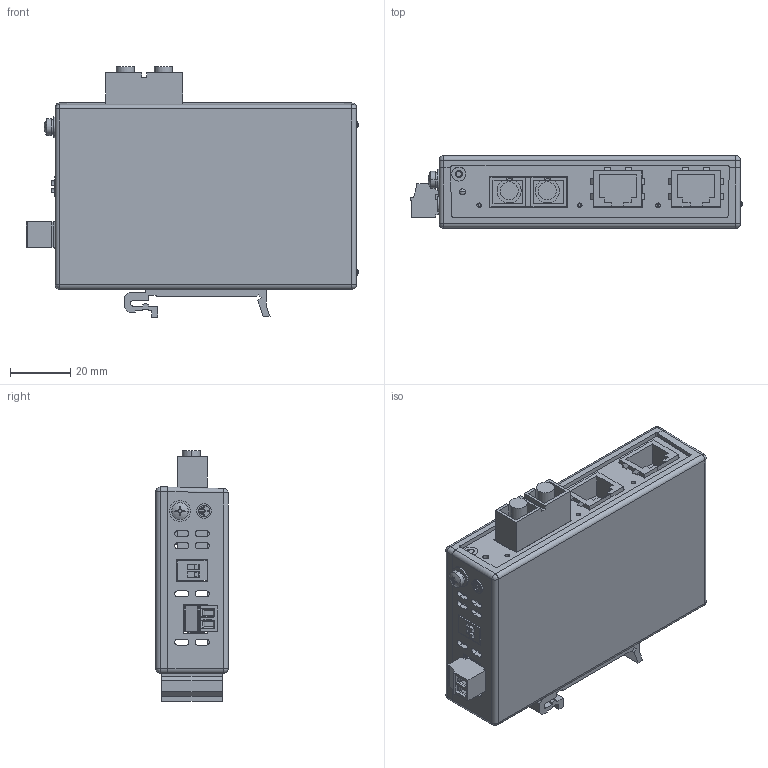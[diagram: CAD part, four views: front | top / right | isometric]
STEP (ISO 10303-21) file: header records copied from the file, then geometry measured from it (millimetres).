
FILE_DESCRIPTION((''),'2;1');
FILE_NAME('MATCHBOX_2FE1FX_ASM','2021-11-08T',('simon'),(''),'PRO/ENGINEER BY PARAMETRIC TECHNOLOGY CORPORATION, 2017170','PRO/ENGINEER BY PARAMETRIC TECHNOLOGY CORPORATION, 2017170','');
FILE_SCHEMA(('CONFIG_CONTROL_DESIGN'));
Products named in the file (29): MATCHBOX_MB_PCB_1X9; MC_1_5-LH_STIFT_1_1_1_1; BCH_381H_HOUSING_1; BCH_381H_ASM; PXC_5431181_02_BCH-381H-2-GY_3D_ASM; 5452235-BCP-508-2-71990; 5452235-BCP-508-2-73950_ASM; PXC_5434926_00_BCP-381-2-GY_3D_ASM; 1-LED; DPL-02-V; ZW2608-13S006F; 1X9; PRT-LED-0006; WGSOC-CNN0662-ST-1X9; MATCHBOX_MB_2-1X9_ASM; MATCHBOX_ME_BOTTOM_5; MATCHBOX_BOTTOM_ASM; MATCHBOX_ME_TOP_5; MATCHBOX_TOP_5_ASM; BN_4851_3645857_M3X4; KAI_GUI_20MM; CROSS_RECESSED_PAN_HEAD_SCREWS_; SPRING_LOCK_WASHERS--NORMAL_TYP; PLAIN_WASHERS--PRODUCT_GRADE_C_; PSW_M3X6_ASM; BN_M2X4; MATCHBOX_ME_24_ASM; MATCHBOX_FRONT_2-1SC; MATCHBOX_2FE1FX_ASM
Assembly tree (36 placements, depth 5):
  MATCHBOX_2FE1FX_ASM
    MATCHBOX_MB_2-1X9_ASM
      MATCHBOX_MB_PCB_1X9
      PXC_5431181_02_BCH-381H-2-GY_3D_ASM
        BCH_381H_ASM
          MC_1_5-LH_STIFT_1_1_1_1  x2
          BCH_381H_HOUSING_1
      PXC_5434926_00_BCP-381-2-GY_3D_ASM
        5452235-BCP-508-2-73950_ASM
          5452235-BCP-508-2-71990
      1-LED
      DPL-02-V
      ZW2608-13S006F  x2
      1X9
      PRT-LED-0006  x3
      WGSOC-CNN0662-ST-1X9
    MATCHBOX_ME_24_ASM
      MATCHBOX_BOTTOM_ASM
        MATCHBOX_ME_BOTTOM_5
      MATCHBOX_TOP_5_ASM
        MATCHBOX_ME_TOP_5
      BN_4851_3645857_M3X4  x5
      KAI_GUI_20MM
      PSW_M3X6_ASM
        CROSS_RECESSED_PAN_HEAD_SCREWS_
        SPRING_LOCK_WASHERS--NORMAL_TYP
        PLAIN_WASHERS--PRODUCT_GRADE_C_
      BN_M2X4
    MATCHBOX_FRONT_2-1SC
Bounding box: 110.2 x 24 x 83.1 mm (x, y, z)
Volume: 57152.6 mm3; surface area: 71161.9 mm2
Topology: 27 solids, 27 shells, 2152 faces, 5742 edges, 3736 vertices
Faces by surface type: plane 1220, cylinder 667, cone 111, bspline 79, torus 47, sphere 24, extrusion 4
Entity records: 63709 total; most frequent: CARTESIAN_POINT 16245, ORIENTED_EDGE 9974, DIRECTION 9453, EDGE_CURVE 4987, VECTOR 3341, LINE 3337, VERTEX_POINT 3252, AXIS2_PLACEMENT_3D 3056
